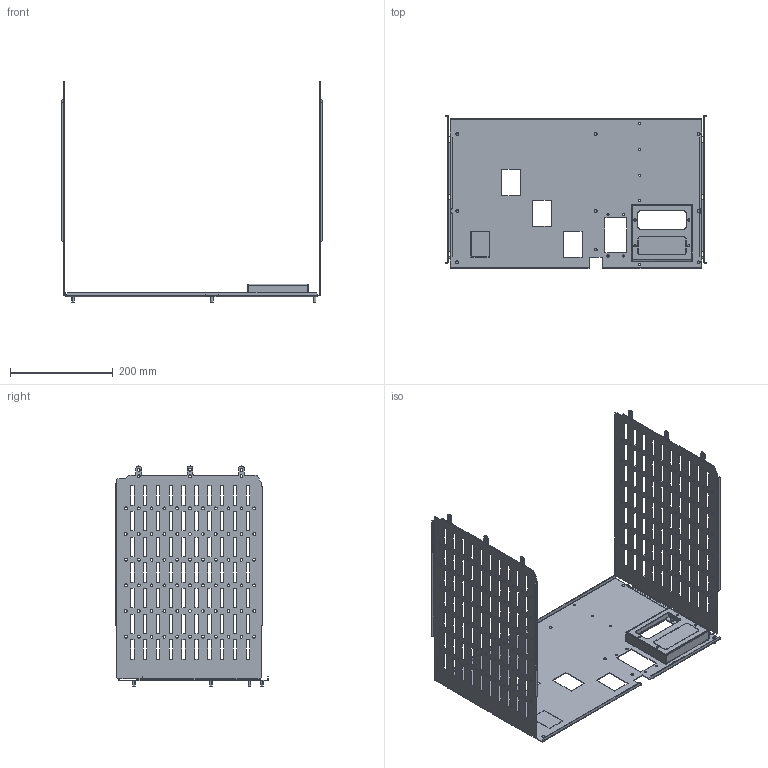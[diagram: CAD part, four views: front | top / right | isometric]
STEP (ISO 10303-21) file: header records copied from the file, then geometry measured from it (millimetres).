
FILE_DESCRIPTION(('CAx-IF Rec.Pracs.---Model Styling and Organization---1.2---2011-12-15','CAx-IF Rec.Pracs.---Geometric and Assembly Validation Properties---4.1---2014-06-16','CAx-IF Rec.Pracs.---PMI Polyline Presentation---2.0---2013-05-24'),'2;1');
FILE_NAME('R5M2W6M1A61.stp','2021-05-05T12:30:02+03:00',(''),(''),'STEP Interface 4.4 by CT CoreTechnologie','3D_Evolution4.4 by CT CoreTechnologie','');
FILE_SCHEMA(('AUTOMOTIVE_DESIGN { 1 0 10303 214 1 1 1 1 }'));
Length unit declared in the file: millimetre
Products named in the file (6): R5M2W6M1A61; RB.1568.00.00.0_-00; M5x8-DIN7500C_stright; RB.1285.00.00.0_-12; RB.1285.00.00.0_-13; RB.1257.00.00.0_-08
Assembly tree (17 placements, depth 2):
  R5M2W6M1A61
    RB.1568.00.00.0_-00
    M5x8-DIN7500C_stright  x13
    RB.1285.00.00.0_-12
    RB.1285.00.00.0_-13
    RB.1257.00.00.0_-08
Bounding box: 510 x 297.5 x 428.6 mm (x, y, z)
Surface area: 719017.1 mm2 (no closed solid volume)
Topology: 0 solids, 18 shells, 1323 faces, 3860 edges, 2561 vertices
Faces by surface type: plane 855, cylinder 460, bspline 8
Entity records: 44719 total; most frequent: CARTESIAN_POINT 7920, ORIENTED_EDGE 7576, DIRECTION 7208, EDGE_CURVE 3788, VECTOR 2910, LINE 2910, VERTEX_POINT 2513, AXIS2_PLACEMENT_3D 2149
